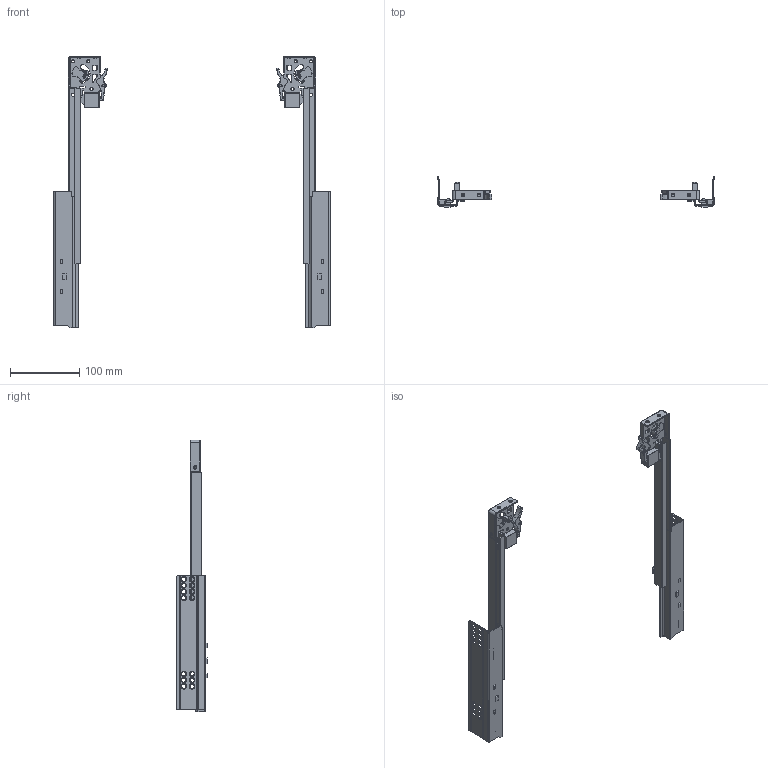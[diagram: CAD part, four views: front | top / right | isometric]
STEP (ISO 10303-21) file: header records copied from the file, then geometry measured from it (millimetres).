
FILE_DESCRIPTION(/* description */ (''),/* implementation_level */ '2;1');
FILE_NAME(/* name */ 'D:\$Workingspace\Designs\Katalog\Cadsoft\GTV Prowadnice\Prowadnice GTV_bryły 3D\PB-GCHX-300_wysunieta.stp',/* time_stamp */ '2016-11-21T15:26:20+01:00',/* author */ ('tomaszw'),/* organization */ (''),/* preprocessor_version */ 'ST-DEVELOPER v16.1',/* originating_system */ 'Autodesk Inventor 2016',/* authorisation */ '');
FILE_SCHEMA (('AUTOMOTIVE_DESIGN { 1 0 10303 214 3 1 1 }'));
Length unit declared in the file: millimetre
Products named in the file (7): PB-GCHX-CL-300; PB-GCHX-CR-300; PB-GCHX-DL-300; PB-GCHX-DR-300; PB-GCHX-SL; PB-GCHX-SR; PB-GCHX
Assembly tree (6 placements, depth 2):
  PB-GCHX
    PB-GCHX-CL-300
    PB-GCHX-CR-300
    PB-GCHX-DL-300
    PB-GCHX-DR-300
    PB-GCHX-SL
    PB-GCHX-SR
Bounding box: 400 x 43.8 x 393.5 mm (x, y, z)
Volume: 169251.5 mm3; surface area: 166978.1 mm2
Topology: 16 solids, 16 shells, 1184 faces, 2812 edges, 1662 vertices
Faces by surface type: cylinder 440, plane 342, torus 222, sphere 82, bspline 70, cone 28
Full cylindrical faces by diameter (mm): 2 x2, 3 x2, 4 x6, 4.5 x6, 5 x2, 6 x28, 7.889 x2, 9 x2
Entity records: 40491 total; most frequent: CARTESIAN_POINT 12017, DIRECTION 6006, ORIENTED_EDGE 5344, EDGE_CURVE 2670, AXIS2_PLACEMENT_3D 2367, VERTEX_POINT 1622, EDGE_LOOP 1402, LINE 1272
